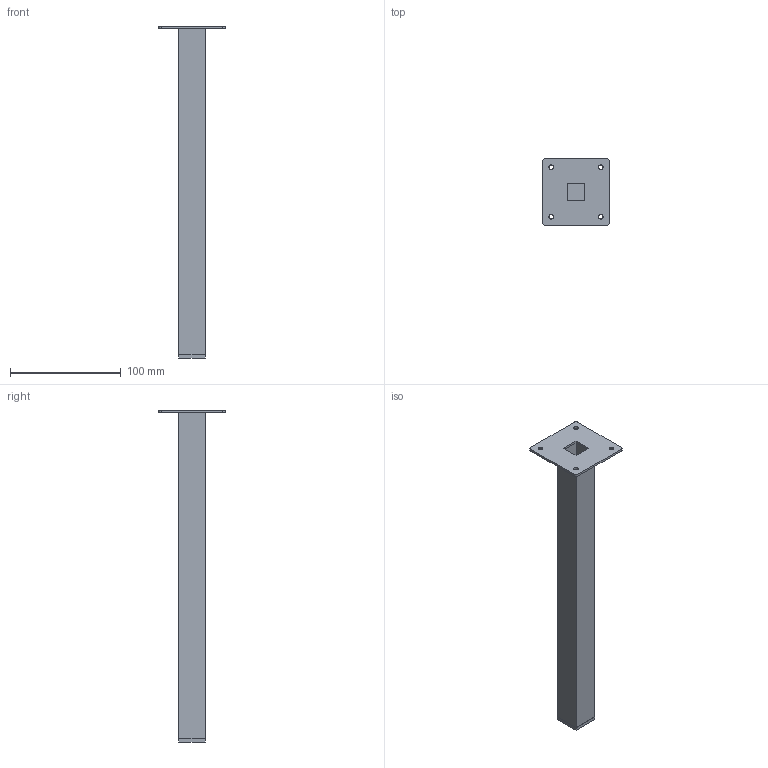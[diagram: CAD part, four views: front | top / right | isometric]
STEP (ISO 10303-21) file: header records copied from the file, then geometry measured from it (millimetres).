
FILE_DESCRIPTION( ( '' ), '1' );
FILE_NAME( 'D:/temp/hettich_stp/hettich/6.5_furniture_legs/table_legs/1350.stp', '2013-02-26T12:27:12', ( '' ), ( '' ), ' ', ' ', ' ' );
FILE_SCHEMA( ( 'automotive_design' ) );
Length unit declared in the file: millimetre
Products named in the file (1): 1
Bounding box: 60 x 60 x 300 mm (x, y, z)
Volume: 35430.4 mm3; surface area: 62998.9 mm2
Topology: 1 solids, 1 shells, 43 faces, 108 edges, 72 vertices
Faces by surface type: plane 31, cylinder 12
Entity records: 2570 total; most frequent: STYLED_ITEM 224, PRESENTATION_STYLE_ASSIGNMENT 224, CARTESIAN_POINT 224, COLOUR_RGB 224, DIRECTION 220, ORIENTED_EDGE 216, EDGE_CURVE 108, CURVE_STYLE 108
